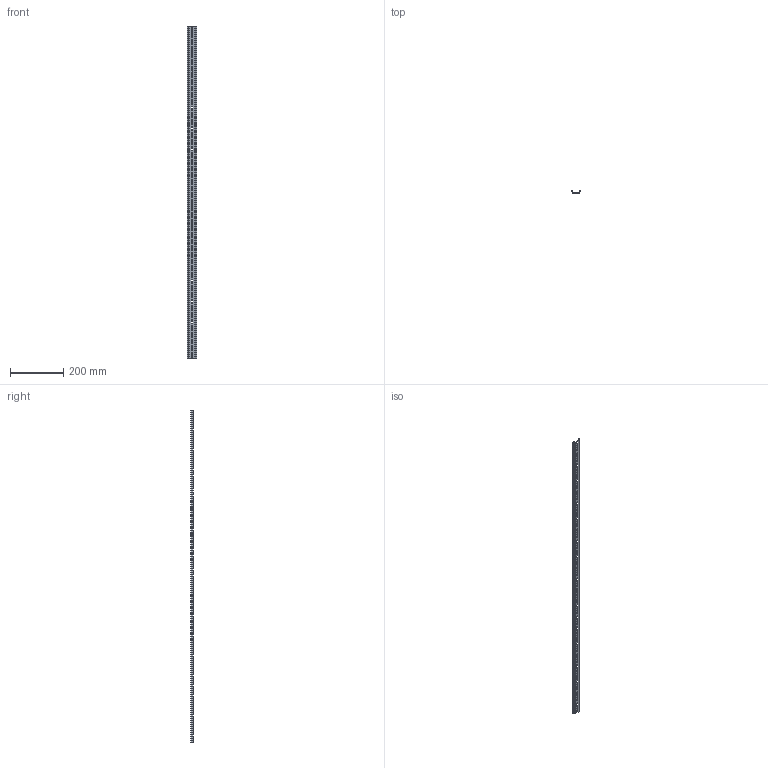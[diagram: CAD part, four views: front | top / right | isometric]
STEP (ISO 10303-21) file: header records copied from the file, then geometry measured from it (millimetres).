
FILE_DESCRIPTION (( 'STEP AP214' ), '1' );
FILE_NAME ('DIN-ðåéêà 1250ìì õ 0,1 ìì.STEP', '2025-10-22T11:54:38', ( '' ), ( '' ), 'SwSTEP 2.0', 'SolidWorks 2018', '' );
FILE_SCHEMA (( 'AUTOMOTIVE_DESIGN' ));
Length unit declared in the file: millimetre
Products named in the file (1): DIN-ðåéêà 1250ìì õ 0,1 ìì
Bounding box: 35.2 x 8.5 x 1250 mm (x, y, z)
Volume: 51213.5 mm3; surface area: 107158.2 mm2
Topology: 1 solids, 1 shells, 288 faces, 826 edges, 540 vertices
Faces by surface type: cylinder 158, plane 130
Entity records: 9724 total; most frequent: DIRECTION 1720, CARTESIAN_POINT 1655, ORIENTED_EDGE 1652, EDGE_CURVE 826, AXIS2_PLACEMENT_3D 605, VERTEX_POINT 540, VECTOR 510, LINE 510
